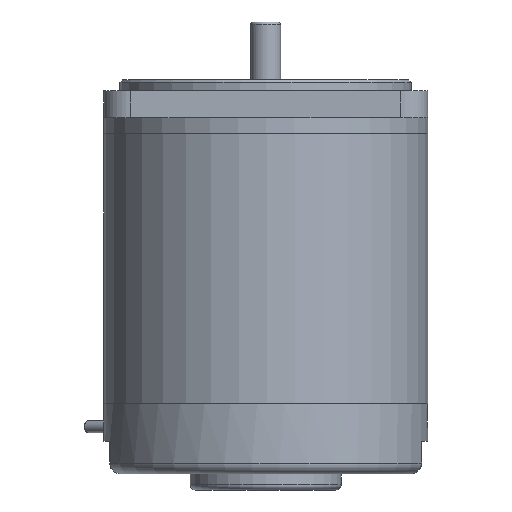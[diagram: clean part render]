
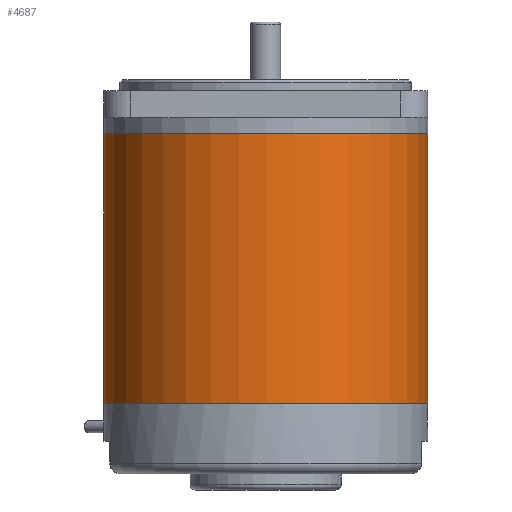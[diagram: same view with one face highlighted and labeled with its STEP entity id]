
A CAD part, front view. The second image highlights one B-rep face of the part: STEP entity #4687.
In plain terms, the highlighted cylindrical face has radius 30 mm (diameter 60 mm), a full revolution.
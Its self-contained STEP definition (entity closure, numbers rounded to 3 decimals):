
#4660=CARTESIAN_POINT('',(0.0,0.0,0.0));
#4661=DIRECTION('',(0.0,0.0,1.0));
#4662=DIRECTION('',(-1.0,0.0,0.0));
#4663=AXIS2_PLACEMENT_3D('',#4660,#4661,#4662);
#4664=CYLINDRICAL_SURFACE('',#4663,30.0);
#4665=CARTESIAN_POINT('',(30.0,0.,50.0));
#4666=VERTEX_POINT('',#4665);
#4667=CARTESIAN_POINT('',(0.0,0.0,50.0));
#4668=DIRECTION('',(0.0,0.0,-1.0));
#4669=DIRECTION('',(-1.0,0.0,0.0));
#4670=AXIS2_PLACEMENT_3D('',#4667,#4668,#4669);
#4671=CIRCLE('',#4670,30.0);
#4672=EDGE_CURVE('',#4666,#4666,#4671,.T.);
#4673=ORIENTED_EDGE('',*,*,#4672,.T.);
#4674=EDGE_LOOP('',(#4673));
#4675=FACE_OUTER_BOUND('',#4674,.T.);
#4676=CARTESIAN_POINT('',(30.0,0.,0.0));
#4677=VERTEX_POINT('',#4676);
#4678=CARTESIAN_POINT('',(0.0,0.0,0.0));
#4679=DIRECTION('',(0.0,0.0,-1.0));
#4680=DIRECTION('',(-1.0,0.0,0.0));
#4681=AXIS2_PLACEMENT_3D('',#4678,#4679,#4680);
#4682=CIRCLE('',#4681,30.0);
#4683=EDGE_CURVE('',#4677,#4677,#4682,.T.);
#4684=ORIENTED_EDGE('',*,*,#4683,.F.);
#4685=EDGE_LOOP('',(#4684));
#4686=FACE_BOUND('',#4685,.T.);
#4687=ADVANCED_FACE('',(#4675,#4686),#4664,.T.);
